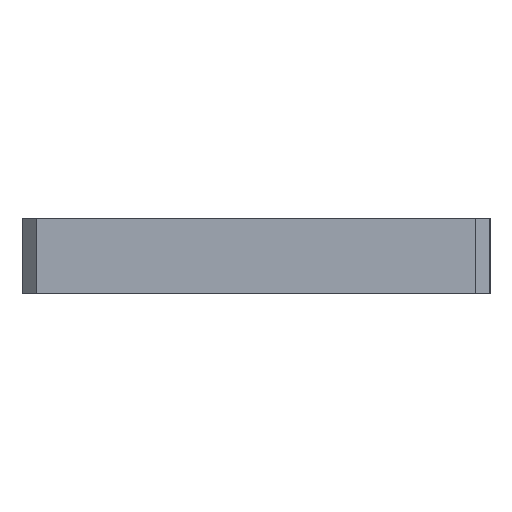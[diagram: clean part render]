
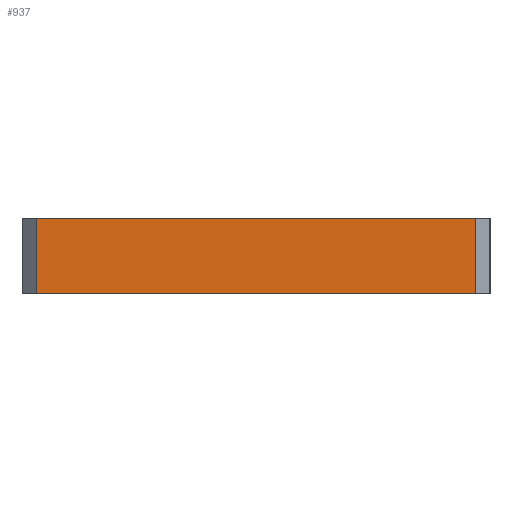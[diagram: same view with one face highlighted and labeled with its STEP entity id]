
A CAD part, left-side view. The second image highlights one B-rep face of the part: STEP entity #937.
In plain terms, the highlighted planar face has unit normal (-1, 0, 0).
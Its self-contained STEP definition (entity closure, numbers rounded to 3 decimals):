
#5 = LINE ( 'NONE', #1523, #484 ) ;
#152 = LINE ( 'NONE', #635, #924 ) ;
#242 = CARTESIAN_POINT ( 'NONE',  ( -42.5, -39., 8. ) ) ;
#349 = CARTESIAN_POINT ( 'NONE',  ( -42.5, -39., 0. ) ) ;
#411 = DIRECTION ( 'NONE',  ( 0., 0., -1. ) ) ;
#427 = ORIENTED_EDGE ( 'NONE', *, *, #1585, .F. ) ;
#458 = DIRECTION ( 'NONE',  ( 0., -1., 0. ) ) ;
#484 = VECTOR ( 'NONE', #1363, 1000. ) ;
#499 = ORIENTED_EDGE ( 'NONE', *, *, #1547, .T. ) ;
#528 = DIRECTION ( 'NONE',  ( 0., 0., -1. ) ) ;
#540 = CARTESIAN_POINT ( 'NONE',  ( -42.5, 7.7, 8. ) ) ;
#583 = CARTESIAN_POINT ( 'NONE',  ( -42.5, 7.7, 8. ) ) ;
#635 = CARTESIAN_POINT ( 'NONE',  ( -42.5, 7.7, 8. ) ) ;
#659 = DIRECTION ( 'NONE',  ( 0., 0., -1. ) ) ;
#700 = AXIS2_PLACEMENT_3D ( 'NONE', #878, #702, #528 ) ;
#701 = VECTOR ( 'NONE', #659, 1000. ) ;
#702 = DIRECTION ( 'NONE',  ( 1., 0., 0. ) ) ;
#718 = FACE_OUTER_BOUND ( 'NONE', #886, .T. ) ;
#724 = VERTEX_POINT ( 'NONE', #540 ) ;
#761 = LINE ( 'NONE', #583, #1259 ) ;
#841 = CARTESIAN_POINT ( 'NONE',  ( -42.5, -39., 8. ) ) ;
#878 = CARTESIAN_POINT ( 'NONE',  ( -42.5, 7.7, 8. ) ) ;
#886 = EDGE_LOOP ( 'NONE', ( #1381, #1169, #427, #499 ) ) ;
#924 = VECTOR ( 'NONE', #458, 1000. ) ;
#937 = ADVANCED_FACE ( 'NONE', ( #718 ), #1061, .F. ) ;
#1035 = EDGE_CURVE ( 'NONE', #1437, #1095, #5, .T. ) ;
#1061 = PLANE ( 'NONE',  #700 ) ;
#1095 = VERTEX_POINT ( 'NONE', #349 ) ;
#1169 = ORIENTED_EDGE ( 'NONE', *, *, #1448, .F. ) ;
#1193 = CARTESIAN_POINT ( 'NONE',  ( -42.5, 7.7, 0. ) ) ;
#1259 = VECTOR ( 'NONE', #411, 1000. ) ;
#1363 = DIRECTION ( 'NONE',  ( 0., -1., 0. ) ) ;
#1366 = LINE ( 'NONE', #841, #701 ) ;
#1381 = ORIENTED_EDGE ( 'NONE', *, *, #1035, .T. ) ;
#1437 = VERTEX_POINT ( 'NONE', #1193 ) ;
#1448 = EDGE_CURVE ( 'NONE', #1610, #1095, #1366, .T. ) ;
#1523 = CARTESIAN_POINT ( 'NONE',  ( -42.5, 7.7, 0. ) ) ;
#1547 = EDGE_CURVE ( 'NONE', #724, #1437, #761, .T. ) ;
#1585 = EDGE_CURVE ( 'NONE', #724, #1610, #152, .T. ) ;
#1610 = VERTEX_POINT ( 'NONE', #242 ) ;
